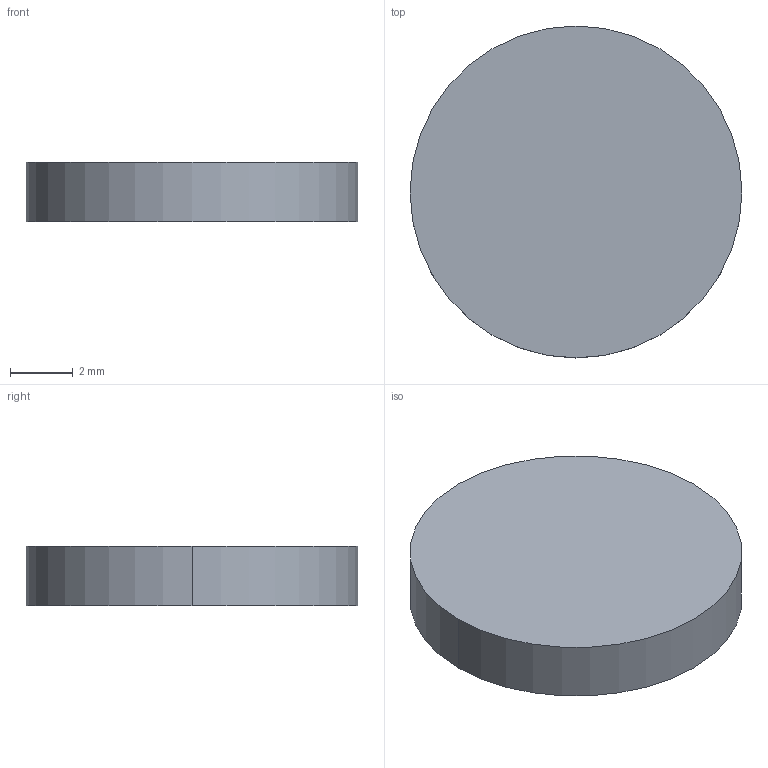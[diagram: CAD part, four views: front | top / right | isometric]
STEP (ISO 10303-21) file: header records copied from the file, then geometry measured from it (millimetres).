
FILE_DESCRIPTION (( 'STEP AP214' ), '1' );
FILE_NAME ('Bottom Cap.STEP', '2023-07-31T21:34:21', ( '' ), ( '' ), 'SwSTEP 2.0', 'SolidWorks 2021', '' );
FILE_SCHEMA (( 'AUTOMOTIVE_DESIGN' ));
Length unit declared in the file: millimetre
Products named in the file (1): Bottom Cap
Bounding box: 10.6 x 10.6 x 1.9 mm (x, y, z)
Volume: 167.7 mm3; surface area: 239.8 mm2
Topology: 1 solids, 1 shells, 4 faces, 6 edges, 4 vertices
Faces by surface type: cylinder 2, plane 2
Entity records: 128 total; most frequent: DIRECTION 20, CARTESIAN_POINT 15, ORIENTED_EDGE 12, AXIS2_PLACEMENT_3D 9, EDGE_CURVE 6, ADVANCED_FACE 4, EDGE_LOOP 4, FACE_OUTER_BOUND 4
